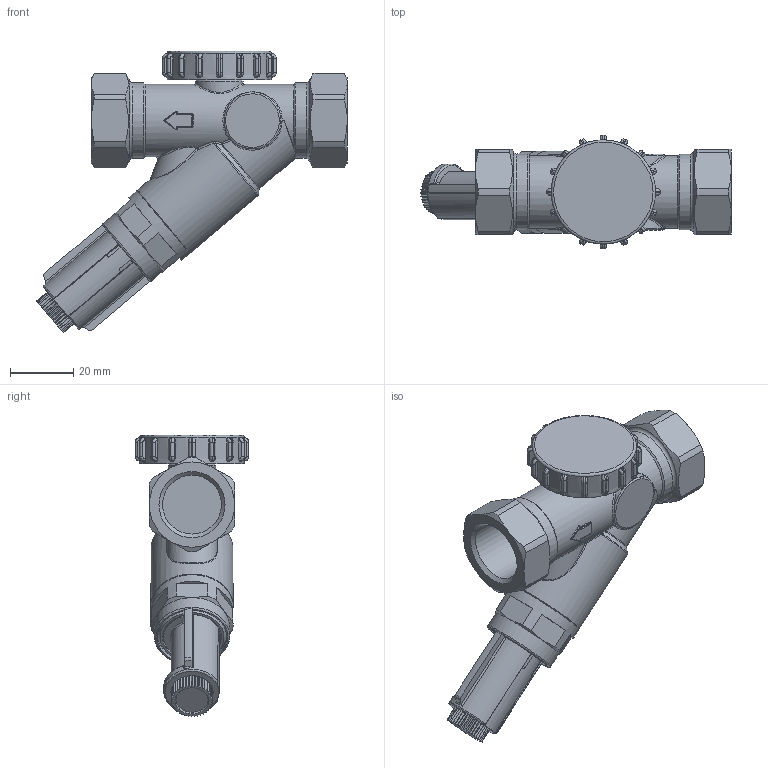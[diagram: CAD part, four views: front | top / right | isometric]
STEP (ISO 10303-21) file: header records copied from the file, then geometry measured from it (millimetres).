
FILE_DESCRIPTION((''),'2;1');
FILE_NAME('C:\Users\duckj\Desktop\10010101.stp','2018-05-29T11:29:53',('duckj'),(''),'Autodesk Inventor 2013','Autodesk Inventor 2013','');
FILE_SCHEMA(('CONFIG_CONTROL_DESIGN'));
Length unit declared in the file: millimetre
Products named in the file (1): 29052018_006
Bounding box: 98.32 x 36 x 89.21 mm (x, y, z)
Volume: 68404.9 mm3; surface area: 21293 mm2
Topology: 1 solids, 1 shells, 1133 faces, 2897 edges, 1779 vertices
Faces by surface type: plane 518, cylinder 259, bspline 246, torus 42, cone 34, sphere 34
Full cylindrical faces by diameter (mm): 13.2 x1, 13.4 x1, 15 x1, 18 x1, 18.631 x2, 22 x1, 22.1 x1, 23 x1, 23.8 x1, 24 x2, 26 x2, 33 x1
Entity records: 42554 total; most frequent: CARTESIAN_POINT 15703, ORIENTED_EDGE 5622, DIRECTION 4885, EDGE_CURVE 2811, VERTEX_POINT 1755, AXIS2_PLACEMENT_3D 1710, VECTOR 1465, LINE 1465
